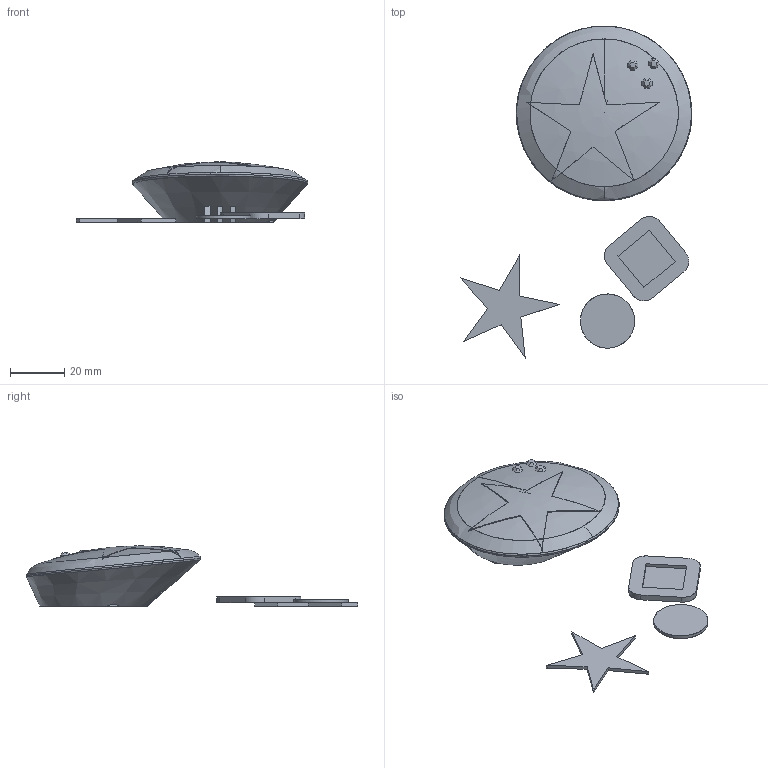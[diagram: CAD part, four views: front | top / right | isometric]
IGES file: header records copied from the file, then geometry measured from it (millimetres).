
Start section: C
Global section: file name: 8212.igs; native system: By Siemens PLM Incorporated; preprocessor: XPlus GENERIC/IGES 16.0.42; author: Author; organization: Title; date: 20231115.120930; units: millimetre
Bounding box: 85.41 x 122.38 x 22.18 mm (x, y, z)
Surface area: 20764.4 mm2 (no closed solid volume)
Topology: 0 solids, 0 shells, 144 faces, 738 edges, 734 vertices
Faces by surface type: bspline 144
